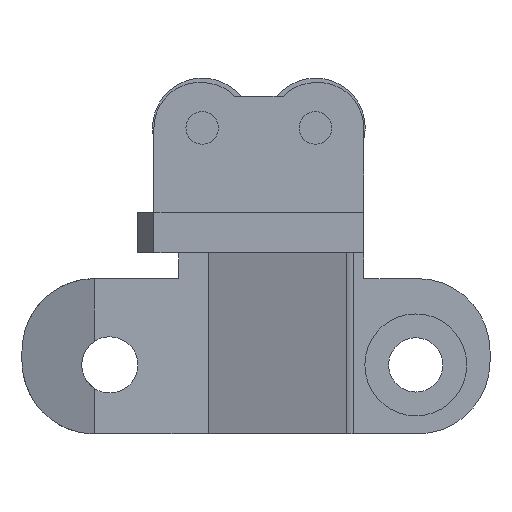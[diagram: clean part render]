
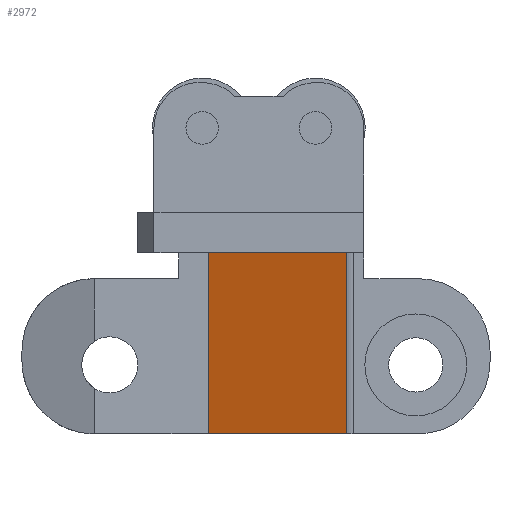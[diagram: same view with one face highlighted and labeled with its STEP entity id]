
A CAD part, left-side view. The second image highlights one B-rep face of the part: STEP entity #2972.
In plain terms, the highlighted planar face has unit normal (-0.934, 0.358, 0).
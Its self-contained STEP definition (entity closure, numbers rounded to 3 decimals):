
#82 = ORIENTED_EDGE ( 'NONE', *, *, #297, .T. ) ;
#140 = CARTESIAN_POINT ( 'NONE',  ( 187.9, 112.222, 8.1 ) ) ;
#297 = EDGE_CURVE ( 'NONE', #5454, #3584, #3563, .T. ) ;
#405 = EDGE_CURVE ( 'NONE', #2966, #2572, #3361, .T. ) ;
#791 = CARTESIAN_POINT ( 'NONE',  ( 182.033, 96.932, 28.1 ) ) ;
#941 = CARTESIAN_POINT ( 'NONE',  ( 187.9, 112.222, 8.1 ) ) ;
#1018 = EDGE_CURVE ( 'NONE', #2572, #5454, #1826, .T. ) ;
#1487 = CARTESIAN_POINT ( 'NONE',  ( 187.9, 112.222, 28.1 ) ) ;
#1766 = CARTESIAN_POINT ( 'NONE',  ( 187.9, 112.222, 47.403 ) ) ;
#1826 = LINE ( 'NONE', #1931, #2993 ) ;
#1931 = CARTESIAN_POINT ( 'NONE',  ( 187.9, 112.222, 47.403 ) ) ;
#1940 = ORIENTED_EDGE ( 'NONE', *, *, #2217, .T. ) ;
#2063 = DIRECTION ( 'NONE',  ( 0., 0., -1. ) ) ;
#2217 = EDGE_CURVE ( 'NONE', #3584, #2966, #3124, .T. ) ;
#2282 = ORIENTED_EDGE ( 'NONE', *, *, #405, .T. ) ;
#2314 = DIRECTION ( 'NONE',  ( 0., 0., 1. ) ) ;
#2572 = VERTEX_POINT ( 'NONE', #1487 ) ;
#2900 = ORIENTED_EDGE ( 'NONE', *, *, #1018, .T. ) ;
#2955 = FACE_OUTER_BOUND ( 'NONE', #3678, .T. ) ;
#2966 = VERTEX_POINT ( 'NONE', #3960 ) ;
#2972 = ADVANCED_FACE ( 'NONE', ( #2955 ), #4408, .F. ) ;
#2993 = VECTOR ( 'NONE', #2063, 1000. ) ;
#3124 = LINE ( 'NONE', #791, #5253 ) ;
#3195 = DIRECTION ( 'NONE',  ( -0.358, -0.934, 0. ) ) ;
#3300 = DIRECTION ( 'NONE',  ( 0.358, 0.934, 0. ) ) ;
#3361 = LINE ( 'NONE', #3367, #3632 ) ;
#3367 = CARTESIAN_POINT ( 'NONE',  ( 198.12, 138.855, 28.1 ) ) ;
#3461 = CARTESIAN_POINT ( 'NONE',  ( 182.033, 96.932, 8.1 ) ) ;
#3552 = AXIS2_PLACEMENT_3D ( 'NONE', #1766, #4834, #5254 ) ;
#3563 = LINE ( 'NONE', #140, #3909 ) ;
#3584 = VERTEX_POINT ( 'NONE', #3461 ) ;
#3632 = VECTOR ( 'NONE', #3300, 1000. ) ;
#3678 = EDGE_LOOP ( 'NONE', ( #82, #1940, #2282, #2900 ) ) ;
#3909 = VECTOR ( 'NONE', #3195, 1000. ) ;
#3960 = CARTESIAN_POINT ( 'NONE',  ( 182.033, 96.932, 28.1 ) ) ;
#4408 = PLANE ( 'NONE',  #3552 ) ;
#4834 = DIRECTION ( 'NONE',  ( 0.934, -0.358, 0. ) ) ;
#5253 = VECTOR ( 'NONE', #2314, 1000. ) ;
#5254 = DIRECTION ( 'NONE',  ( 0.358, 0.934, 0. ) ) ;
#5454 = VERTEX_POINT ( 'NONE', #941 ) ;
